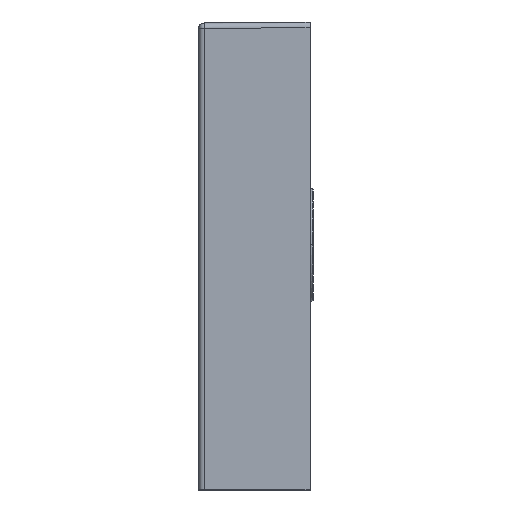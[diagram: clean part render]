
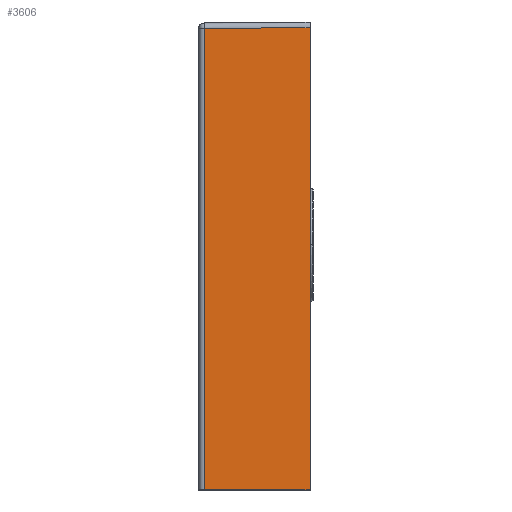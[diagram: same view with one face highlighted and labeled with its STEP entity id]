
A CAD part, left-side view. The second image highlights one B-rep face of the part: STEP entity #3606.
In plain terms, the highlighted planar face has unit normal (-1, 0.009, 0).
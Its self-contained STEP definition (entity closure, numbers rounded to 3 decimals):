
#33 = ORIENTED_EDGE ( 'NONE', *, *, #366, .T. ) ;
#366 = EDGE_CURVE ( 'NONE', #5925, #1269, #1491, .T. ) ;
#628 = ORIENTED_EDGE ( 'NONE', *, *, #1684, .T. ) ;
#899 = CARTESIAN_POINT ( 'NONE',  ( -350., -100., 195. ) ) ;
#950 = CARTESIAN_POINT ( 'NONE',  ( -349.968, -96.379, 194.969 ) ) ;
#990 = CARTESIAN_POINT ( 'NONE',  ( -349.171, -4.956, -220. ) ) ;
#1269 = VERTEX_POINT ( 'NONE', #4109 ) ;
#1354 = DIRECTION ( 'NONE',  ( -0.009, -1., 0. ) ) ;
#1414 = CARTESIAN_POINT ( 'NONE',  ( -349.171, -4.956, 194.171 ) ) ;
#1491 = LINE ( 'NONE', #990, #6636 ) ;
#1537 = EDGE_LOOP ( 'NONE', ( #628, #33, #6418, #3936 ) ) ;
#1587 = EDGE_CURVE ( 'NONE', #5324, #1269, #5409, .T. ) ;
#1684 = EDGE_CURVE ( 'NONE', #6186, #5925, #5076, .T. ) ;
#1774 = CARTESIAN_POINT ( 'NONE',  ( -350., -100., -220. ) ) ;
#1932 = CARTESIAN_POINT ( 'NONE',  ( -350., -100., -220. ) ) ;
#2448 = AXIS2_PLACEMENT_3D ( 'NONE', #1932, #5476, #1354 ) ;
#2463 = DIRECTION ( 'NONE',  ( 0.009, 1., -0.009 ) ) ;
#2968 = FACE_OUTER_BOUND ( 'NONE', #1537, .T. ) ;
#3038 = DIRECTION ( 'NONE',  ( 0., 0., -1. ) ) ;
#3123 = EDGE_CURVE ( 'NONE', #6186, #5324, #3719, .T. ) ;
#3176 = CARTESIAN_POINT ( 'NONE',  ( -350., -100., -220. ) ) ;
#3606 = ADVANCED_FACE ( 'NONE', ( #2968 ), #6008, .T. ) ;
#3651 = VECTOR ( 'NONE', #4916, 1000. ) ;
#3719 = LINE ( 'NONE', #3176, #4502 ) ;
#3887 = CARTESIAN_POINT ( 'NONE',  ( -350.262, -129.998, -220. ) ) ;
#3936 = ORIENTED_EDGE ( 'NONE', *, *, #3123, .F. ) ;
#4109 = CARTESIAN_POINT ( 'NONE',  ( -349.171, -4.956, -220. ) ) ;
#4502 = VECTOR ( 'NONE', #5741, 1000. ) ;
#4916 = DIRECTION ( 'NONE',  ( 0.009, 1., 0. ) ) ;
#5076 = LINE ( 'NONE', #950, #6098 ) ;
#5324 = VERTEX_POINT ( 'NONE', #1774 ) ;
#5409 = LINE ( 'NONE', #3887, #3651 ) ;
#5476 = DIRECTION ( 'NONE',  ( -1., 0.009, 0. ) ) ;
#5741 = DIRECTION ( 'NONE',  ( 0., 0., -1. ) ) ;
#5925 = VERTEX_POINT ( 'NONE', #1414 ) ;
#6008 = PLANE ( 'NONE',  #2448 ) ;
#6098 = VECTOR ( 'NONE', #2463, 1000. ) ;
#6186 = VERTEX_POINT ( 'NONE', #899 ) ;
#6418 = ORIENTED_EDGE ( 'NONE', *, *, #1587, .F. ) ;
#6636 = VECTOR ( 'NONE', #3038, 1000. ) ;
